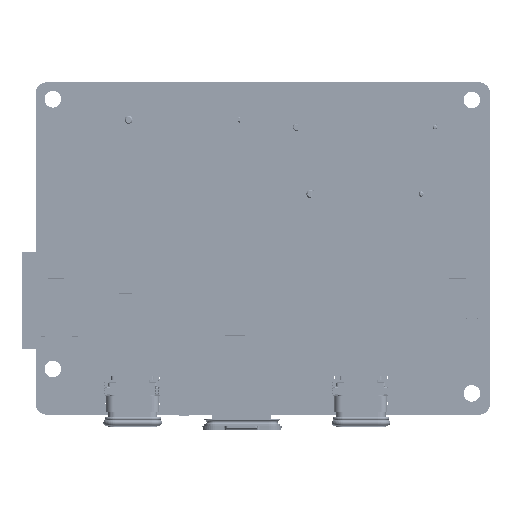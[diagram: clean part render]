
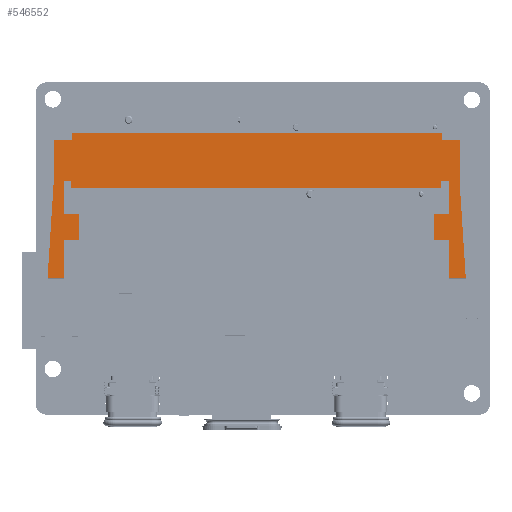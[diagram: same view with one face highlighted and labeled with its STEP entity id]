
A CAD part, top view. The second image highlights one B-rep face of the part: STEP entity #546552.
In plain terms, the highlighted planar face has unit normal (0, 0, 1).
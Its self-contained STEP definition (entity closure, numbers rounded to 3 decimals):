
#545683=DIRECTION('',(-1.,0.,0.));
#545684=VECTOR('',#545683,3.098);
#545685=CARTESIAN_POINT('',(-33.527,-3.725,9.45));
#545686=LINE('',#545685,#545684);
#545691=DIRECTION('',(0.,1.,0.));
#545692=VECTOR('',#545691,1.251);
#545693=CARTESIAN_POINT('',(-33.527,-4.976,9.45));
#545694=LINE('',#545693,#545692);
#545699=DIRECTION('',(-1.,0.,0.));
#545700=VECTOR('',#545699,66.805);
#545701=CARTESIAN_POINT('',(33.277,-4.976,9.45));
#545702=LINE('',#545701,#545700);
#545707=DIRECTION('',(0.,-1.,0.));
#545708=VECTOR('',#545707,1.251);
#545709=CARTESIAN_POINT('',(33.277,-3.725,9.45));
#545710=LINE('',#545709,#545708);
#545715=DIRECTION('',(-1.,0.,0.));
#545716=VECTOR('',#545715,3.348);
#545717=CARTESIAN_POINT('',(36.625,-3.725,9.45));
#545718=LINE('',#545717,#545716);
#545723=DIRECTION('',(0.,-1.,0.));
#545724=VECTOR('',#545723,7.45);
#545725=CARTESIAN_POINT('',(36.625,3.725,9.45));
#545726=LINE('',#545725,#545724);
#545735=DIRECTION('',(1.,0.,0.));
#545736=VECTOR('',#545735,2.95);
#545737=CARTESIAN_POINT('',(34.8,21.28,9.45));
#545738=LINE('',#545737,#545736);
#545743=DIRECTION('',(0.,1.,0.));
#545744=VECTOR('',#545743,6.981);
#545745=CARTESIAN_POINT('',(34.8,14.299,9.45));
#545746=LINE('',#545745,#545744);
#545751=DIRECTION('',(1.,0.,0.));
#545752=VECTOR('',#545751,2.753);
#545753=CARTESIAN_POINT('',(32.047,14.299,9.45));
#545754=LINE('',#545753,#545752);
#545759=DIRECTION('',(0.,1.,0.));
#545760=VECTOR('',#545759,4.597);
#545761=CARTESIAN_POINT('',(32.047,9.701,9.45));
#545762=LINE('',#545761,#545760);
#545767=DIRECTION('',(-1.,0.,0.));
#545768=VECTOR('',#545767,2.753);
#545769=CARTESIAN_POINT('',(34.8,9.701,9.45));
#545770=LINE('',#545769,#545768);
#545775=DIRECTION('',(0.,1.,0.));
#545776=VECTOR('',#545775,5.976);
#545777=CARTESIAN_POINT('',(34.8,3.725,9.45));
#545778=LINE('',#545777,#545776);
#545783=DIRECTION('',(1.,0.,0.));
#545784=VECTOR('',#545783,1.273);
#545785=CARTESIAN_POINT('',(33.527,3.725,9.45));
#545786=LINE('',#545785,#545784);
#545791=DIRECTION('',(0.,-1.,0.));
#545792=VECTOR('',#545791,1.251);
#545793=CARTESIAN_POINT('',(33.527,4.976,9.45));
#545794=LINE('',#545793,#545792);
#545799=DIRECTION('',(1.,0.,0.));
#545800=VECTOR('',#545799,66.805);
#545801=CARTESIAN_POINT('',(-33.277,4.976,9.45));
#545802=LINE('',#545801,#545800);
#545807=DIRECTION('',(0.,1.,0.));
#545808=VECTOR('',#545807,1.251);
#545809=CARTESIAN_POINT('',(-33.277,3.725,9.45));
#545810=LINE('',#545809,#545808);
#545815=DIRECTION('',(1.,0.,0.));
#545816=VECTOR('',#545815,1.523);
#545817=CARTESIAN_POINT('',(-34.8,3.725,9.45));
#545818=LINE('',#545817,#545816);
#545823=DIRECTION('',(0.,-1.,0.));
#545824=VECTOR('',#545823,5.976);
#545825=CARTESIAN_POINT('',(-34.8,9.701,9.45));
#545826=LINE('',#545825,#545824);
#545831=DIRECTION('',(-1.,0.,0.));
#545832=VECTOR('',#545831,2.753);
#545833=CARTESIAN_POINT('',(-32.047,9.701,9.45));
#545834=LINE('',#545833,#545832);
#545839=DIRECTION('',(0.,-1.,0.));
#545840=VECTOR('',#545839,4.597);
#545841=CARTESIAN_POINT('',(-32.047,14.299,9.45));
#545842=LINE('',#545841,#545840);
#545847=DIRECTION('',(1.,0.,0.));
#545848=VECTOR('',#545847,2.753);
#545849=CARTESIAN_POINT('',(-34.8,14.299,9.45));
#545850=LINE('',#545849,#545848);
#545855=DIRECTION('',(0.,-1.,0.));
#545856=VECTOR('',#545855,6.981);
#545857=CARTESIAN_POINT('',(-34.8,21.28,9.45));
#545858=LINE('',#545857,#545856);
#545863=DIRECTION('',(1.,0.,0.));
#545864=VECTOR('',#545863,2.95);
#545865=CARTESIAN_POINT('',(-37.75,21.28,9.45));
#545866=LINE('',#545865,#545864);
#545875=DIRECTION('',(0.,1.,0.));
#545876=VECTOR('',#545875,7.45);
#545877=CARTESIAN_POINT('',(-36.625,-3.725,9.45));
#545878=LINE('',#545877,#545876);
#545983=DIRECTION('',(0.064,-0.998,0.));
#545984=VECTOR('',#545983,17.591);
#545985=CARTESIAN_POINT('',(-37.75,21.28,9.45));
#545986=LINE('',#545985,#545984);
#545987=DIRECTION('',(0.064,0.998,0.));
#545988=VECTOR('',#545987,17.591);
#545989=CARTESIAN_POINT('',(36.625,3.725,9.45));
#545990=LINE('',#545989,#545988);
#545991=CARTESIAN_POINT('',(-33.277,4.976,9.45));
#545993=VERTEX_POINT('',#545991);
#545999=CARTESIAN_POINT('',(-32.047,9.701,9.45));
#546000=CARTESIAN_POINT('',(-34.8,9.701,9.45));
#546001=VERTEX_POINT('',#545999);
#546002=VERTEX_POINT('',#546000);
#546003=CARTESIAN_POINT('',(33.527,4.976,9.45));
#546004=VERTEX_POINT('',#546003);
#546023=CARTESIAN_POINT('',(-33.277,3.725,9.45));
#546024=VERTEX_POINT('',#546023);
#546025=CARTESIAN_POINT('',(36.625,3.725,9.45));
#546026=VERTEX_POINT('',#546025);
#546027=CARTESIAN_POINT('',(33.527,3.725,9.45));
#546028=VERTEX_POINT('',#546027);
#546029=CARTESIAN_POINT('',(-34.8,3.725,9.45));
#546030=VERTEX_POINT('',#546029);
#546037=CARTESIAN_POINT('',(34.8,21.28,9.45));
#546039=VERTEX_POINT('',#546037);
#546041=CARTESIAN_POINT('',(-36.625,-3.725,9.45));
#546043=VERTEX_POINT('',#546041);
#546047=CARTESIAN_POINT('',(34.8,3.725,9.45));
#546048=CARTESIAN_POINT('',(34.8,9.701,9.45));
#546049=VERTEX_POINT('',#546047);
#546050=VERTEX_POINT('',#546048);
#546051=CARTESIAN_POINT('',(32.047,9.701,9.45));
#546052=VERTEX_POINT('',#546051);
#546055=CARTESIAN_POINT('',(-34.8,14.299,9.45));
#546056=CARTESIAN_POINT('',(-32.047,14.299,9.45));
#546057=VERTEX_POINT('',#546055);
#546058=VERTEX_POINT('',#546056);
#546063=CARTESIAN_POINT('',(33.277,-4.976,9.45));
#546064=VERTEX_POINT('',#546063);
#546067=CARTESIAN_POINT('',(-36.625,3.725,9.45));
#546068=VERTEX_POINT('',#546067);
#546069=CARTESIAN_POINT('',(-34.8,21.28,9.45));
#546071=VERTEX_POINT('',#546069);
#546073=CARTESIAN_POINT('',(-37.75,21.28,9.45));
#546074=VERTEX_POINT('',#546073);
#546077=CARTESIAN_POINT('',(-33.527,-3.725,9.45));
#546078=VERTEX_POINT('',#546077);
#546079=CARTESIAN_POINT('',(34.8,14.299,9.45));
#546080=VERTEX_POINT('',#546079);
#546081=CARTESIAN_POINT('',(-33.527,-4.976,9.45));
#546082=VERTEX_POINT('',#546081);
#546083=CARTESIAN_POINT('',(33.277,-3.725,9.45));
#546084=VERTEX_POINT('',#546083);
#546087=CARTESIAN_POINT('',(37.75,21.28,9.45));
#546088=VERTEX_POINT('',#546087);
#546091=CARTESIAN_POINT('',(32.047,14.299,9.45));
#546092=VERTEX_POINT('',#546091);
#546093=CARTESIAN_POINT('',(36.625,-3.725,9.45));
#546094=VERTEX_POINT('',#546093);
#546519=CARTESIAN_POINT('',(0.,0.,9.45));
#546520=DIRECTION('',(0.,0.,1.));
#546521=DIRECTION('',(1.,0.,0.));
#546522=AXIS2_PLACEMENT_3D('',#546519,#546520,#546521);
#546523=PLANE('',#546522);
#546524=ORIENTED_EDGE('',*,*,#546151,.T.);
#546525=ORIENTED_EDGE('',*,*,#546136,.T.);
#546526=ORIENTED_EDGE('',*,*,#546121,.T.);
#546527=ORIENTED_EDGE('',*,*,#546106,.T.);
#546528=ORIENTED_EDGE('',*,*,#546480,.T.);
#546529=ORIENTED_EDGE('',*,*,#546466,.F.);
#546530=ORIENTED_EDGE('',*,*,#546451,.T.);
#546531=ORIENTED_EDGE('',*,*,#546436,.T.);
#546532=ORIENTED_EDGE('',*,*,#546421,.T.);
#546533=ORIENTED_EDGE('',*,*,#546406,.T.);
#546534=ORIENTED_EDGE('',*,*,#546391,.T.);
#546535=ORIENTED_EDGE('',*,*,#546376,.T.);
#546536=ORIENTED_EDGE('',*,*,#546361,.T.);
#546537=ORIENTED_EDGE('',*,*,#546346,.T.);
#546538=ORIENTED_EDGE('',*,*,#546331,.T.);
#546539=ORIENTED_EDGE('',*,*,#546316,.T.);
#546540=ORIENTED_EDGE('',*,*,#546301,.T.);
#546541=ORIENTED_EDGE('',*,*,#546286,.T.);
#546542=ORIENTED_EDGE('',*,*,#546271,.T.);
#546543=ORIENTED_EDGE('',*,*,#546256,.T.);
#546544=ORIENTED_EDGE('',*,*,#546241,.T.);
#546545=ORIENTED_EDGE('',*,*,#546226,.T.);
#546546=ORIENTED_EDGE('',*,*,#546211,.T.);
#546547=ORIENTED_EDGE('',*,*,#546196,.F.);
#546548=ORIENTED_EDGE('',*,*,#546181,.T.);
#546549=ORIENTED_EDGE('',*,*,#546166,.T.);
#546550=EDGE_LOOP('',(#546524,#546525,#546526,#546527,#546528,#546529,#546530,
#546531,#546532,#546533,#546534,#546535,#546536,#546537,#546538,#546539,#546540,
#546541,#546542,#546543,#546544,#546545,#546546,#546547,#546548,#546549));
#546551=FACE_OUTER_BOUND('',#546550,.F.);
#546106=EDGE_CURVE('',#546078,#546043,#545686,.T.);
#546121=EDGE_CURVE('',#546082,#546078,#545694,.T.);
#546136=EDGE_CURVE('',#546064,#546082,#545702,.T.);
#546151=EDGE_CURVE('',#546084,#546064,#545710,.T.);
#546166=EDGE_CURVE('',#546094,#546084,#545718,.T.);
#546181=EDGE_CURVE('',#546026,#546094,#545726,.T.);
#546196=EDGE_CURVE('',#546026,#546088,#545990,.T.);
#546211=EDGE_CURVE('',#546039,#546088,#545738,.T.);
#546226=EDGE_CURVE('',#546080,#546039,#545746,.T.);
#546241=EDGE_CURVE('',#546092,#546080,#545754,.T.);
#546256=EDGE_CURVE('',#546052,#546092,#545762,.T.);
#546271=EDGE_CURVE('',#546050,#546052,#545770,.T.);
#546286=EDGE_CURVE('',#546049,#546050,#545778,.T.);
#546301=EDGE_CURVE('',#546028,#546049,#545786,.T.);
#546316=EDGE_CURVE('',#546004,#546028,#545794,.T.);
#546331=EDGE_CURVE('',#545993,#546004,#545802,.T.);
#546346=EDGE_CURVE('',#546024,#545993,#545810,.T.);
#546361=EDGE_CURVE('',#546030,#546024,#545818,.T.);
#546376=EDGE_CURVE('',#546002,#546030,#545826,.T.);
#546391=EDGE_CURVE('',#546001,#546002,#545834,.T.);
#546406=EDGE_CURVE('',#546058,#546001,#545842,.T.);
#546421=EDGE_CURVE('',#546057,#546058,#545850,.T.);
#546436=EDGE_CURVE('',#546071,#546057,#545858,.T.);
#546451=EDGE_CURVE('',#546074,#546071,#545866,.T.);
#546466=EDGE_CURVE('',#546074,#546068,#545986,.T.);
#546480=EDGE_CURVE('',#546043,#546068,#545878,.T.);
#546552=ADVANCED_FACE('',(#546551),#546523,.T.);
